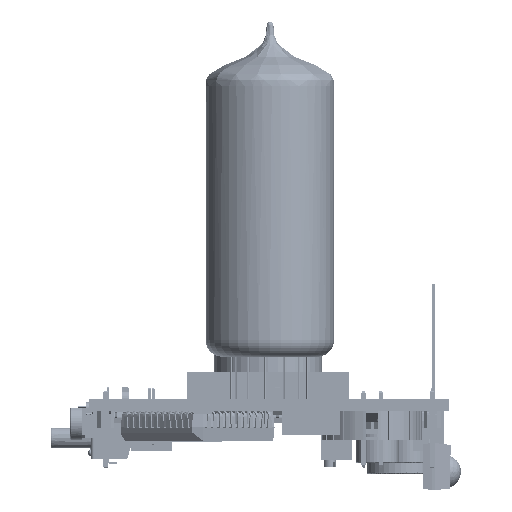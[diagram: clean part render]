
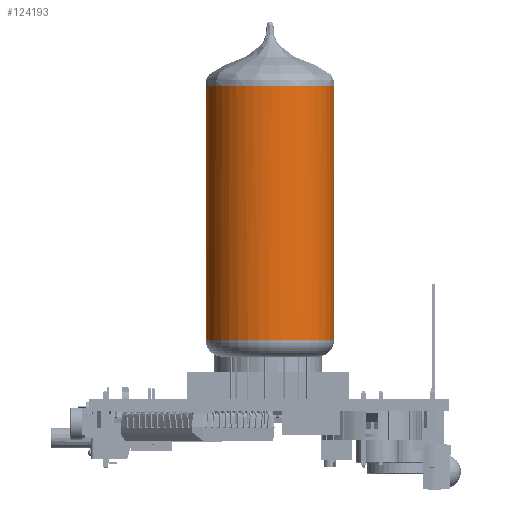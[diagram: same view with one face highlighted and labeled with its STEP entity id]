
A CAD part, left-side view. The second image highlights one B-rep face of the part: STEP entity #124193.
In plain terms, the highlighted cylindrical face has radius 9.5 mm (diameter 19 mm), a partial arc.
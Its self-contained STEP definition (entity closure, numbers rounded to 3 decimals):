
#123924 = EDGE_CURVE('',#123925,#123927,#123929,.T.);
#123925 = VERTEX_POINT('',#123926);
#123926 = CARTESIAN_POINT('',(17.025,36.055,
    46.309));
#123927 = VERTEX_POINT('',#123928);
#123928 = CARTESIAN_POINT('',(11.834,34.511,
    46.309));
#123929 = B_SPLINE_CURVE_WITH_KNOTS('',5,(#123930,#123931,#123932,
    #123933,#123934,#123935),.UNSPECIFIED.,.F.,.F.,(6,6),(0.409,
    0.5),.PIECEWISE_BEZIER_KNOTS.);
#123930 = CARTESIAN_POINT('',(17.025,36.055,
    46.309));
#123931 = CARTESIAN_POINT('',(15.955,36.056,
    46.309));
#123932 = CARTESIAN_POINT('',(14.879,35.907,
    46.309));
#123933 = CARTESIAN_POINT('',(13.819,35.603,
    46.309));
#123934 = CARTESIAN_POINT('',(12.796,35.139,
    46.309));
#123935 = CARTESIAN_POINT('',(11.834,34.511,
    46.309));
#124132 = VERTEX_POINT('',#124133);
#124133 = CARTESIAN_POINT('',(17.025,36.055,
    8.809));
#124141 = VERTEX_POINT('',#124142);
#124142 = CARTESIAN_POINT('',(17.025,17.055,
    8.809));
#124165 = VERTEX_POINT('',#124166);
#124166 = CARTESIAN_POINT('',(17.025,17.055,
    46.309));
#124175 = EDGE_CURVE('',#124165,#124141,#124176,.T.);
#124176 = LINE('',#124177,#124178);
#124177 = CARTESIAN_POINT('',(17.025,17.055,
    46.309));
#124178 = VECTOR('',#124179,1.);
#124179 = DIRECTION('',(0.,0.,-1.));
#124182 = EDGE_CURVE('',#123925,#124132,#124183,.T.);
#124183 = LINE('',#124184,#124185);
#124184 = CARTESIAN_POINT('',(17.025,36.055,
    46.309));
#124185 = VECTOR('',#124186,1.);
#124186 = DIRECTION('',(0.,0.,-1.));
#124193 = ADVANCED_FACE('',(#124194),#124221,.T.);
#124194 = FACE_BOUND('',#124195,.T.);
#124195 = EDGE_LOOP('',(#124196,#124197,#124212,#124213,#124214));
#124196 = ORIENTED_EDGE('',*,*,#124175,.F.);
#124197 = ORIENTED_EDGE('',*,*,#124198,.F.);
#124198 = EDGE_CURVE('',#123927,#124165,#124199,.T.);
#124199 = B_SPLINE_CURVE_WITH_KNOTS('',5,(#124200,#124201,#124202,
    #124203,#124204,#124205,#124206,#124207,#124208,#124209,#124210,
    #124211),.UNSPECIFIED.,.F.,.F.,(6,3,3,6),(0.5,0.75,0.781,
    0.909),.UNSPECIFIED.);
#124200 = CARTESIAN_POINT('',(11.834,34.511,
    46.309));
#124201 = CARTESIAN_POINT('',(9.199,32.793,
    46.309));
#124202 = CARTESIAN_POINT('',(7.51,30.166,
    46.309));
#124203 = CARTESIAN_POINT('',(6.862,27.084,
    46.309));
#124204 = CARTESIAN_POINT('',(7.41,23.613,
    46.309));
#124205 = CARTESIAN_POINT('',(9.517,20.712,
    46.309));
#124206 = CARTESIAN_POINT('',(9.755,20.421,
    46.309));
#124207 = CARTESIAN_POINT('',(11.049,18.976,
    46.309));
#124208 = CARTESIAN_POINT('',(12.64,17.927,
    46.309));
#124209 = CARTESIAN_POINT('',(14.05,17.352,
    46.309));
#124210 = CARTESIAN_POINT('',(15.531,17.057,
    46.309));
#124211 = CARTESIAN_POINT('',(17.025,17.055,
    46.309));
#124212 = ORIENTED_EDGE('',*,*,#123924,.F.);
#124213 = ORIENTED_EDGE('',*,*,#124182,.T.);
#124214 = ORIENTED_EDGE('',*,*,#124215,.T.);
#124215 = EDGE_CURVE('',#124132,#124141,#124216,.T.);
#124216 = CIRCLE('',#124217,9.5);
#124217 = AXIS2_PLACEMENT_3D('',#124218,#124219,#124220);
#124218 = CARTESIAN_POINT('',(17.025,26.555,
    8.809));
#124219 = DIRECTION('',(0.,0.,1.));
#124220 = DIRECTION('',(0.,-1.,0.));
#124221 = CYLINDRICAL_SURFACE('',#124222,9.5);
#124222 = AXIS2_PLACEMENT_3D('',#124223,#124224,#124225);
#124223 = CARTESIAN_POINT('',(17.025,26.555,
    46.309));
#124224 = DIRECTION('',(0.,0.,-1.));
#124225 = DIRECTION('',(0.,1.,0.));
